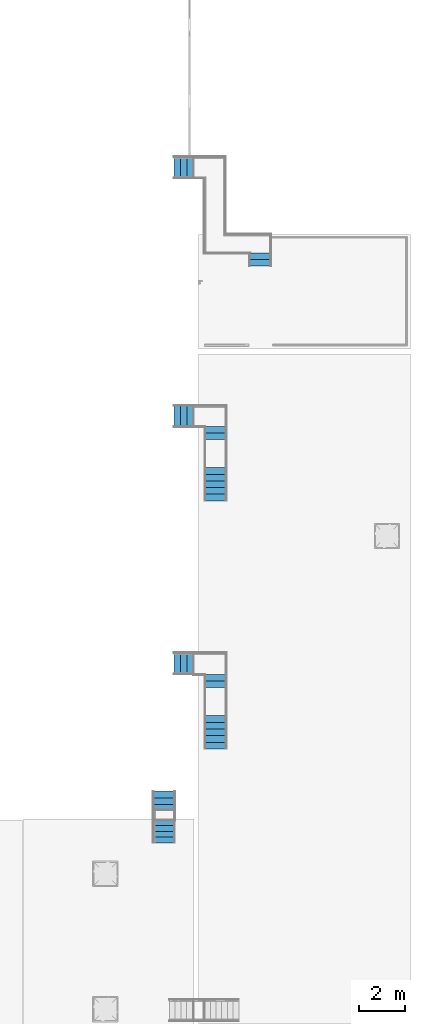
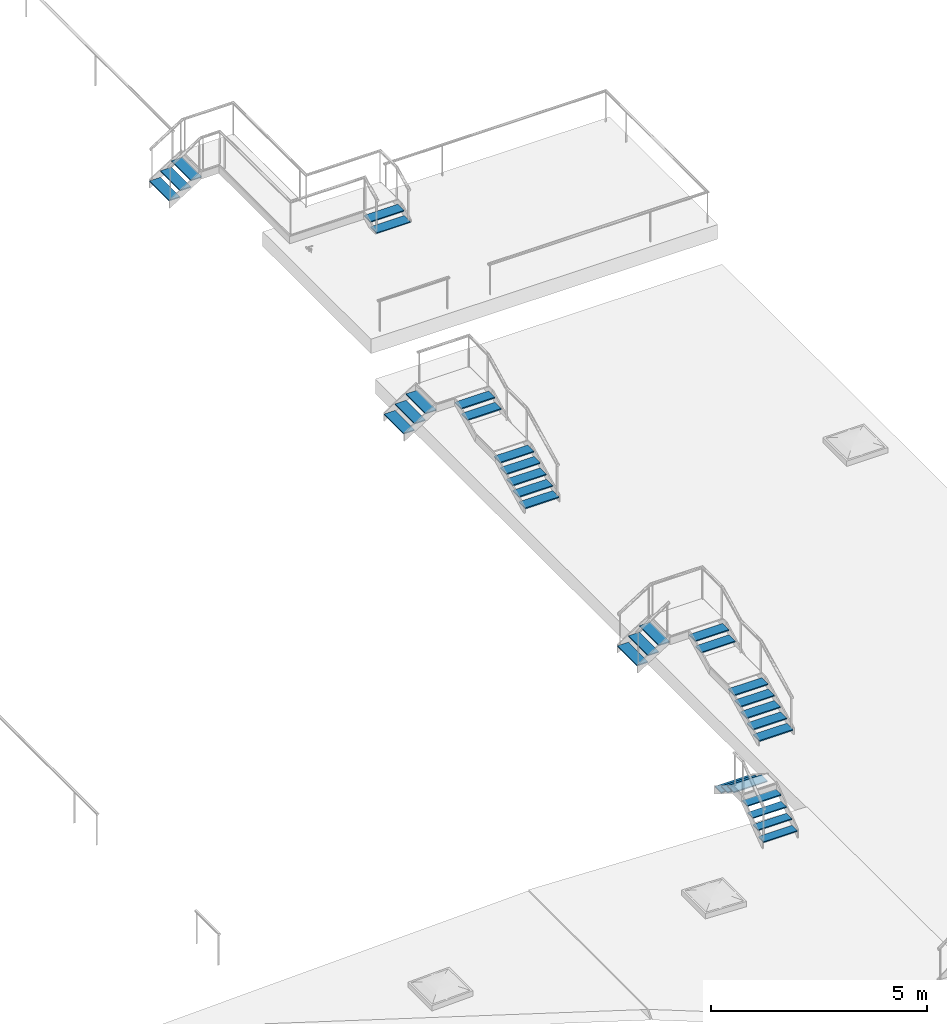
# One storey, part 3 of 15: 10 stair flights, 8 elements without a shape of their own.
"""IFC2X3 building model written with IfcOpenShell, lengths in centimetres."""

from ifc_helpers import new_model, entity, si_unit, converted_unit, derived_unit, direction, frame, frame_2d, origin, origin_2d_with_axis, place, context, subcontext, project, spatial, rectangle, extrude, material, element, aggregate, save


model = new_model("IFC2X3")

# Units and contexts
model_context = context("Model", 3, precision=0.001, world=origin(), true_north=direction((6.12303176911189e-17, 1.0)))
body_context = subcontext(model_context, "Body", "Model", "MODEL_VIEW")
ifc_project = project(units=[si_unit("LENGTHUNIT", "METRE", prefix="CENTI"), si_unit("AREAUNIT", "SQUARE_METRE"), si_unit("VOLUMEUNIT", "CUBIC_METRE"), converted_unit("PLANEANGLEUNIT", "DEGREE", entity("IfcRatioMeasure", 0.0174532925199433), si_unit("PLANEANGLEUNIT", "RADIAN"), dimensions=[0, 0, 0, 0, 0, 0, 0]), si_unit("MASSUNIT", "GRAM", prefix="KILO"), si_unit("TIMEUNIT", "SECOND"), si_unit("FREQUENCYUNIT", "HERTZ"), si_unit("THERMODYNAMICTEMPERATUREUNIT", "DEGREE_CELSIUS"), derived_unit("THERMALTRANSMITTANCEUNIT", [(si_unit("MASSUNIT", "GRAM", prefix="KILO"), 1), (si_unit("THERMODYNAMICTEMPERATUREUNIT", "KELVIN"), -1), (si_unit("TIMEUNIT", "SECOND"), -3)]), derived_unit("VOLUMETRICFLOWRATEUNIT", [(si_unit("LENGTHUNIT", "METRE"), 3), (si_unit("TIMEUNIT", "SECOND"), -1)]), si_unit("ELECTRICCURRENTUNIT", "AMPERE"), si_unit("ELECTRICVOLTAGEUNIT", "VOLT"), si_unit("POWERUNIT", "WATT"), si_unit("FORCEUNIT", "NEWTON", prefix="KILO"), si_unit("ILLUMINANCEUNIT", "LUX"), si_unit("LUMINOUSFLUXUNIT", "LUMEN"), si_unit("LUMINOUSINTENSITYUNIT", "CANDELA"), derived_unit("USERDEFINED", [(si_unit("MASSUNIT", "GRAM", prefix="KILO"), -1), (si_unit("LENGTHUNIT", "METRE"), -2), (si_unit("TIMEUNIT", "SECOND"), 3), (si_unit("LUMINOUSFLUXUNIT", "LUMEN"), 1)]), derived_unit("LINEARVELOCITYUNIT", [(si_unit("LENGTHUNIT", "METRE"), 1), (si_unit("TIMEUNIT", "SECOND"), -1)]), si_unit("PRESSUREUNIT", "PASCAL"), derived_unit("USERDEFINED", [(si_unit("LENGTHUNIT", "METRE"), -2), (si_unit("MASSUNIT", "GRAM", prefix="KILO"), 1), (si_unit("TIMEUNIT", "SECOND"), -2)])], contexts=[model_context])

# Site, building, storey
site_placement = place(None, frame((8.62739174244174, -249.285249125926, 0.0)))
site = spatial("IfcSite", under=ifc_project, at=site_placement, Name="Default", CompositionType="ELEMENT")
building_placement = place(site_placement, origin())
building = spatial("IfcBuilding", under=site, at=building_placement, CompositionType="ELEMENT")
storey_placement = place(building_placement, frame((0.0, 0.0, 801.0)))
storey = spatial("IfcBuildingStorey", under=building, at=storey_placement, Name="Acrotère E3", CompositionType="ELEMENT", Elevation=801.0)

# Stair, stair flights
stair_1_placement = place(building_placement, frame((0.0, 0.0, 801.0)))
stair_1 = element("IfcStair", 1, at=stair_1_placement, inside=storey, Name="Escalier assemblé:Escalier", ShapeType="NOTDEFINED")
ifc_material = material(Name="Acier, 45-345")
stair_flight_1_placement = place(stair_1_placement, origin())
stair_flight_1 = element("IfcStairFlight", 2, at=stair_flight_1_placement, material=ifc_material, Name="Escalier assemblé:Escalier:1444679 Run 1", ObjectType="Escalier assemblé:Escalier métallique", NumberOfRiser=6, NumberOfTreads=5, RiserHeight=0.477544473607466, TreadLength=0.951443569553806, context=body_context, shape_type="SweptSolid", body=[
    extrude(rectangle(XDim=28.9999999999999, YDim=90.0000000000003, at=frame_2d((-2.16715534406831e-13, 0.0), x_axis=(1.0, 0.0))), frame((3128.90482781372, 3866.68519336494, -65.4444444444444), z_axis=(0.0, 0.0, 1.0), x_axis=(0.0, -1.0, 0.0)), (0.0, 0.0, 1.0), 2.99999999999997),
    extrude(rectangle(XDim=28.9999999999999, YDim=90.0000000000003, at=frame_2d((-2.16715534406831e-13, 0.0), x_axis=(1.0, 0.0))), frame((3128.90482781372, 3895.68519336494, -50.8888888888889), z_axis=(0.0, 0.0, 1.0), x_axis=(0.0, -1.0, 0.0)), (0.0, 0.0, 1.0), 2.99999999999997),
    extrude(rectangle(XDim=29.0000000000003, YDim=90.0000000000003, at=origin_2d_with_axis()), frame((3128.90482781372, 3924.68519336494, -36.3333333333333), z_axis=(0.0, 0.0, 1.0), x_axis=(0.0, -1.0, 0.0)), (0.0, 0.0, 1.0), 2.99999999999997),
    extrude(rectangle(XDim=29.0000000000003, YDim=90.0000000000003, at=origin_2d_with_axis()), frame((3128.90482781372, 3953.68519336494, -21.7777777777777), z_axis=(0.0, 0.0, 1.0), x_axis=(0.0, -1.0, 0.0)), (0.0, 0.0, 1.0), 2.99999999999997),
    extrude(rectangle(XDim=29.0000000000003, YDim=90.0000000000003, at=origin_2d_with_axis()), frame((3128.90482781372, 3982.68519336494, -7.22222222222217), z_axis=(0.0, 0.0, 1.0), x_axis=(0.0, -1.0, 0.0)), (0.0, 0.0, 1.0), 2.99999999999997),
])
stair_flight_2_placement = place(stair_1_placement, origin())
stair_flight_2 = element("IfcStairFlight", 3, at=stair_flight_2_placement, material=ifc_material, Name="Escalier assemblé:Escalier:1444679 Run 2", ObjectType="Escalier assemblé:Escalier métallique", NumberOfRiser=3, NumberOfTreads=2, RiserHeight=0.477544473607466, TreadLength=0.951443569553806, context=body_context, shape_type="SweptSolid", body=[
    extrude(rectangle(XDim=29.0000000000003, YDim=90.0000000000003, at=origin_2d_with_axis()), frame((3128.90482781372, 4133.97531195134, 21.8888888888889), z_axis=(0.0, 0.0, 1.0), x_axis=(0.0, -1.0, 0.0)), (0.0, 0.0, 1.0), 2.99999999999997),
    extrude(rectangle(XDim=29.0000000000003, YDim=90.0000000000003, at=origin_2d_with_axis()), frame((3128.90482781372, 4162.97531195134, 36.4444444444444), z_axis=(0.0, 0.0, 1.0), x_axis=(0.0, -1.0, 0.0)), (0.0, 0.0, 1.0), 2.99999999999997),
])
aggregate(stair_1, [stair_flight_1, stair_flight_2])

# Stair, stair flight
stair_2_placement = place(storey_placement, origin())
stair_2 = element("IfcStair", 4, at=stair_2_placement, inside=storey, Name="Escalier assemblé:Escalier", ShapeType="NOTDEFINED")
stair_flight_3_placement = place(stair_2_placement, origin())
stair_flight_3 = element("IfcStairFlight", 5, at=stair_flight_3_placement, material=ifc_material, Name="Escalier assemblé:Escalier:1452997 Run 1", ObjectType="Escalier assemblé:Escalier métallique toiture", NumberOfRiser=4, NumberOfTreads=3, RiserHeight=0.597841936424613, TreadLength=0.951443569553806, context=body_context, shape_type="SweptSolid", body=[
    extrude(rectangle(XDim=28.9999999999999, YDim=90.0000000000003, at=frame_2d((-2.16715534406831e-13, 0.0), x_axis=(1.0, 0.0))), frame((2961.40482781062, 4225.47531195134, -3.66666666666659), z_axis=(0.0, 0.0, 1.0), x_axis=(-1.0, 0.0, 0.0)), (0.0, 0.0, 1.0), 2.99999999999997),
    extrude(rectangle(XDim=28.9999999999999, YDim=90.0000000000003, at=frame_2d((-2.16715534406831e-13, 0.0), x_axis=(1.0, 0.0))), frame((2990.40482781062, 4225.47531195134, 14.5555555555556), z_axis=(0.0, 0.0, 1.0), x_axis=(-1.0, 0.0, 0.0)), (0.0, 0.0, 1.0), 2.99999999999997),
    extrude(rectangle(XDim=28.9999999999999, YDim=90.0000000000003, at=frame_2d((-2.16715534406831e-13, 0.0), x_axis=(1.0, 0.0))), frame((3019.40482781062, 4225.47531195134, 32.7777777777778), z_axis=(0.0, 0.0, 1.0), x_axis=(-1.0, 0.0, 0.0)), (0.0, 0.0, 1.0), 2.99999999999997),
])
aggregate(stair_2, [stair_flight_3])

# Stair, stair flights
stair_3_placement = place(storey_placement, origin())
stair_3 = element("IfcStair", 6, at=stair_3_placement, inside=storey, Name="Escalier assemblé:Escalier", ShapeType="NOTDEFINED")
stair_flight_4_placement = place(stair_3_placement, origin())
stair_flight_4 = element("IfcStairFlight", 7, at=stair_flight_4_placement, material=ifc_material, Name="Escalier assemblé:Escalier:1453682 Run 1", ObjectType="Escalier assemblé:Escalier métallique", NumberOfRiser=6, NumberOfTreads=5, RiserHeight=0.477544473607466, TreadLength=0.951443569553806, context=body_context, shape_type="SweptSolid", body=[
    extrude(rectangle(XDim=29.0000000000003, YDim=90.0000000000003, at=origin_2d_with_axis()), frame((3128.90482780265, 4948.43172100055, -65.4444444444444), z_axis=(0.0, 0.0, 1.0), x_axis=(0.0, -1.0, 0.0)), (0.0, 0.0, 1.0), 2.99999999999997),
    extrude(rectangle(XDim=29.0000000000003, YDim=90.0000000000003, at=origin_2d_with_axis()), frame((3128.90482780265, 4977.43172100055, -50.8888888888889), z_axis=(0.0, 0.0, 1.0), x_axis=(0.0, -1.0, 0.0)), (0.0, 0.0, 1.0), 2.99999999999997),
    extrude(rectangle(XDim=29.0000000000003, YDim=90.0000000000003, at=origin_2d_with_axis()), frame((3128.90482780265, 5006.43172100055, -36.3333333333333), z_axis=(0.0, 0.0, 1.0), x_axis=(0.0, -1.0, 0.0)), (0.0, 0.0, 1.0), 2.99999999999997),
    extrude(rectangle(XDim=29.0000000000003, YDim=90.0000000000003, at=origin_2d_with_axis()), frame((3128.90482780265, 5035.43172100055, -21.7777777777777), z_axis=(0.0, 0.0, 1.0), x_axis=(0.0, -1.0, 0.0)), (0.0, 0.0, 1.0), 2.99999999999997),
    extrude(rectangle(XDim=29.0000000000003, YDim=90.0000000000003, at=origin_2d_with_axis()), frame((3128.90482780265, 5064.43172100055, -7.22222222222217), z_axis=(0.0, 0.0, 1.0), x_axis=(0.0, -1.0, 0.0)), (0.0, 0.0, 1.0), 2.99999999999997),
])
stair_flight_5_placement = place(stair_3_placement, origin())
stair_flight_5 = element("IfcStairFlight", 8, at=stair_flight_5_placement, material=ifc_material, Name="Escalier assemblé:Escalier:1453682 Run 2", ObjectType="Escalier assemblé:Escalier métallique", NumberOfRiser=3, NumberOfTreads=2, RiserHeight=0.477544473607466, TreadLength=0.951443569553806, context=body_context, shape_type="SweptSolid", body=[
    extrude(rectangle(XDim=29.0000000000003, YDim=90.0000000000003, at=origin_2d_with_axis()), frame((3128.90482780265, 5214.97723577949, 21.8888888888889), z_axis=(0.0, 0.0, 1.0), x_axis=(0.0, -1.0, 0.0)), (0.0, 0.0, 1.0), 2.99999999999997),
    extrude(rectangle(XDim=29.0000000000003, YDim=90.0000000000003, at=origin_2d_with_axis()), frame((3128.90482780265, 5243.97723577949, 36.4444444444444), z_axis=(0.0, 0.0, 1.0), x_axis=(0.0, -1.0, 0.0)), (0.0, 0.0, 1.0), 2.99999999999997),
])
aggregate(stair_3, [stair_flight_4, stair_flight_5])

# Stair, stair flight
stair_4_placement = place(storey_placement, origin())
stair_4 = element("IfcStair", 9, at=stair_4_placement, inside=storey, Name="Escalier assemblé:Escalier", ShapeType="NOTDEFINED")
stair_flight_6_placement = place(stair_4_placement, origin())
stair_flight_6 = element("IfcStairFlight", 10, at=stair_flight_6_placement, material=ifc_material, Name="Escalier assemblé:Escalier:1453709 Run 1", ObjectType="Escalier assemblé:Escalier métallique toiture", NumberOfRiser=4, NumberOfTreads=3, RiserHeight=0.597841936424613, TreadLength=0.951443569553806, context=body_context, shape_type="SweptSolid", body=[
    extrude(rectangle(XDim=28.9999999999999, YDim=90.0000000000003, at=frame_2d((-2.16715534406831e-13, 0.0), x_axis=(1.0, 0.0))), frame((2961.40482781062, 5303.47723577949, -3.66666666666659), z_axis=(0.0, 0.0, 1.0), x_axis=(-1.0, 0.0, 0.0)), (0.0, 0.0, 1.0), 2.99999999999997),
    extrude(rectangle(XDim=28.9999999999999, YDim=90.0000000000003, at=frame_2d((2.16715534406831e-13, 0.0), x_axis=(1.0, 0.0))), frame((2990.40482781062, 5303.47723577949, 14.5555555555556), z_axis=(0.0, 0.0, 1.0), x_axis=(-1.0, 0.0, 0.0)), (0.0, 0.0, 1.0), 2.99999999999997),
    extrude(rectangle(XDim=28.9999999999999, YDim=90.0000000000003, at=frame_2d((2.16715534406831e-13, 0.0), x_axis=(1.0, 0.0))), frame((3019.40482781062, 5303.47723577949, 32.7777777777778), z_axis=(0.0, 0.0, 1.0), x_axis=(-1.0, 0.0, 0.0)), (0.0, 0.0, 1.0), 2.99999999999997),
])
aggregate(stair_4, [stair_flight_6])

stair_5_placement = place(storey_placement, origin())
stair_5 = element("IfcStair", 11, at=stair_5_placement, inside=storey, Name="Escalier assemblé:Escalier", ShapeType="NOTDEFINED")
stair_flight_7_placement = place(stair_5_placement, origin())
stair_flight_7 = element("IfcStairFlight", 12, at=stair_flight_7_placement, material=ifc_material, Name="Escalier assemblé:Escalier:1453820 Run 1", ObjectType="Escalier assemblé:Escalier métallique", NumberOfRiser=3, NumberOfTreads=2, RiserHeight=0.477544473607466, TreadLength=0.951443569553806, context=body_context, shape_type="SweptSolid", body=[
    extrude(rectangle(XDim=29.0000000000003, YDim=90.0000000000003, at=origin_2d_with_axis()), frame((3322.90482780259, 5971.4802081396, 21.8888888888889), z_axis=(0.0, 0.0, 1.0), x_axis=(0.0, -1.0, 0.0)), (0.0, 0.0, 1.0), 2.99999999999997),
    extrude(rectangle(XDim=29.0000000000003, YDim=90.0000000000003, at=origin_2d_with_axis()), frame((3322.90482780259, 6000.4802081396, 36.4444444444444), z_axis=(0.0, 0.0, 1.0), x_axis=(0.0, -1.0, 0.0)), (0.0, 0.0, 1.0), 2.99999999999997),
])
aggregate(stair_5, [stair_flight_7])

stair_6_placement = place(storey_placement, origin())
stair_6 = element("IfcStair", 13, at=stair_6_placement, inside=storey, Name="Escalier assemblé:Escalier", ShapeType="NOTDEFINED")
stair_flight_8_placement = place(stair_6_placement, origin())
stair_flight_8 = element("IfcStairFlight", 14, at=stair_flight_8_placement, material=ifc_material, Name="Escalier assemblé:Escalier:1453845 Run 1", ObjectType="Escalier assemblé:Escalier métallique toiture", NumberOfRiser=4, NumberOfTreads=3, RiserHeight=0.597841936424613, TreadLength=0.951443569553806, context=body_context, shape_type="SweptSolid", body=[
    extrude(rectangle(XDim=28.9999999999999, YDim=90.0000000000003, at=frame_2d((-2.16715534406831e-13, 0.0), x_axis=(1.0, 0.0))), frame((2961.40482781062, 6387.47742132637, -3.66666666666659), z_axis=(0.0, 0.0, 1.0), x_axis=(-1.0, 0.0, 0.0)), (0.0, 0.0, 1.0), 2.99999999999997),
    extrude(rectangle(XDim=28.9999999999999, YDim=90.0000000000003, at=frame_2d((-2.16715534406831e-13, 0.0), x_axis=(1.0, 0.0))), frame((2990.40482781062, 6387.47742132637, 14.5555555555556), z_axis=(0.0, 0.0, 1.0), x_axis=(-1.0, 0.0, 0.0)), (0.0, 0.0, 1.0), 2.99999999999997),
    extrude(rectangle(XDim=28.9999999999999, YDim=90.0000000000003, at=frame_2d((-2.16715534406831e-13, 0.0), x_axis=(1.0, 0.0))), frame((3019.40482781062, 6387.47742132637, 32.7777777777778), z_axis=(0.0, 0.0, 1.0), x_axis=(-1.0, 0.0, 0.0)), (0.0, 0.0, 1.0), 2.99999999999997),
])
aggregate(stair_6, [stair_flight_8])

stair_7_placement = place(storey_placement, origin())
stair_7 = element("IfcStair", 15, at=stair_7_placement, inside=storey, Name="Escalier assemblé:Escalier", ShapeType="NOTDEFINED")
stair_flight_9_placement = place(stair_7_placement, origin())
stair_flight_9 = element("IfcStairFlight", 16, at=stair_flight_9_placement, material=ifc_material, Name="Escalier assemblé:Escalier:1461847 Run 1", ObjectType="Escalier assemblé:Escalier métallique toiture", NumberOfRiser=5, NumberOfTreads=4, RiserHeight=0.613985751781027, TreadLength=0.820209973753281, context=body_context, shape_type="SweptSolid", body=[
    extrude(rectangle(XDim=24.9999999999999, YDim=90.0000000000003, at=frame_2d((-2.16715534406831e-13, 0.0), x_axis=(1.0, 0.0))), frame((2903.97106117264, 3455.48060251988, -23.8571428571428), z_axis=(0.0, 0.0, 1.0), x_axis=(0.0, -1.0, 0.0)), (0.0, 0.0, 1.0), 2.99999999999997),
    extrude(rectangle(XDim=24.9999999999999, YDim=90.0000000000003, at=frame_2d((2.16715534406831e-13, 0.0), x_axis=(1.0, 0.0))), frame((2903.97106117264, 3480.48060251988, -5.14285714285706), z_axis=(0.0, 0.0, 1.0), x_axis=(0.0, -1.0, 0.0)), (0.0, 0.0, 1.0), 2.99999999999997),
    extrude(rectangle(XDim=24.9999999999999, YDim=90.0000000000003, at=frame_2d((2.16715534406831e-13, 0.0), x_axis=(1.0, 0.0))), frame((2903.97106117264, 3505.48060251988, 13.5714285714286), z_axis=(0.0, 0.0, 1.0), x_axis=(0.0, -1.0, 0.0)), (0.0, 0.0, 1.0), 2.99999999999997),
    extrude(rectangle(XDim=24.9999999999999, YDim=90.0000000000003, at=frame_2d((2.16715534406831e-13, 0.0), x_axis=(1.0, 0.0))), frame((2903.97106117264, 3530.48060251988, 32.2857142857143), z_axis=(0.0, 0.0, 1.0), x_axis=(0.0, -1.0, 0.0)), (0.0, 0.0, 1.0), 2.99999999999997),
])
aggregate(stair_7, [stair_flight_9])

stair_8_placement = place(storey_placement, origin())
stair_8 = element("IfcStair", 17, at=stair_8_placement, inside=storey, Name="Escalier assemblé:Escalier", ShapeType="NOTDEFINED")
stair_flight_10_placement = place(stair_8_placement, origin())
stair_flight_10 = element("IfcStairFlight", 18, at=stair_flight_10_placement, material=ifc_material, Name="Escalier assemblé:Escalier:1461963 Run 1", ObjectType="Escalier assemblé:Escalier métallique toiture", NumberOfRiser=4, NumberOfTreads=3, RiserHeight=0.597841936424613, TreadLength=0.951443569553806, context=body_context, shape_type="SweptSolid", body=[
    extrude(rectangle(XDim=28.9999999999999, YDim=90.0000000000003, at=frame_2d((2.16715534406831e-13, 0.0), x_axis=(1.0, 0.0))), frame((2904.14525468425, 3653.51084815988, -3.66666666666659), z_axis=(0.0, 0.0, 1.0), x_axis=(0.0, 1.0, 0.0)), (0.0, 0.0, 1.0), 2.99999999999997),
    extrude(rectangle(XDim=28.9999999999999, YDim=90.0000000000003, at=frame_2d((-2.16715534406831e-13, 0.0), x_axis=(1.0, 0.0))), frame((2904.14525468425, 3624.51084815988, 14.5555555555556), z_axis=(0.0, 0.0, 1.0), x_axis=(0.0, 1.0, 0.0)), (0.0, 0.0, 1.0), 2.99999999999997),
    extrude(rectangle(XDim=28.9999999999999, YDim=90.0000000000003, at=frame_2d((-2.16715534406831e-13, 0.0), x_axis=(1.0, 0.0))), frame((2904.14525468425, 3595.51084815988, 32.7777777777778), z_axis=(0.0, 0.0, 1.0), x_axis=(0.0, 1.0, 0.0)), (0.0, 0.0, 1.0), 2.99999999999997),
])
aggregate(stair_8, [stair_flight_10])

save(model, "model.ifc")
